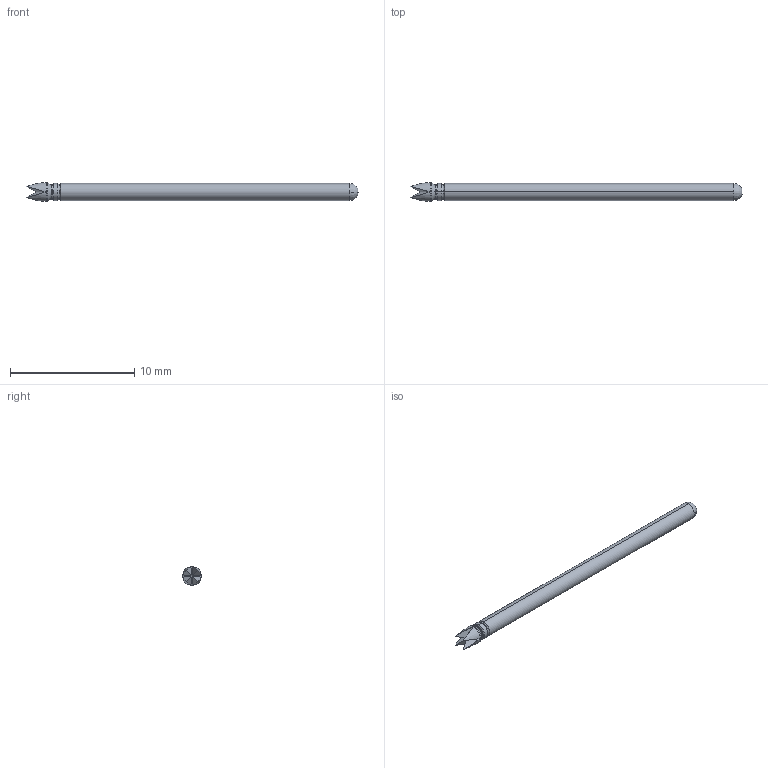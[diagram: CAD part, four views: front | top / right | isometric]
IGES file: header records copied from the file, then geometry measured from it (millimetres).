
Start section: SolidWorks IGES file using analytic representation for surfaces
Global section: file name: Z:\probe solid model mockups\Solidworks models\POGO-25 IGS files\POGO-25L Full.IGS; native system: SolidWorks 2006 by SolidWorks Corporation; preprocessor: SolidWorks 2006 by SolidWorks Corporation; author: tsakatani; date: 071214.092807; units: inch
Bounding box: 26.67 x 1.52 x 1.52 mm (x, y, z)
Surface area: 118.1 mm2 (no closed solid volume)
Topology: 0 solids, 0 shells, 30 faces, 186 edges, 186 vertices
Faces by surface type: revolution 16, bspline 14
